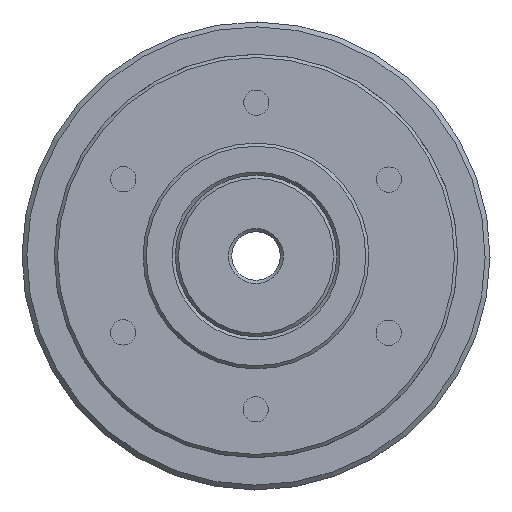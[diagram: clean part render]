
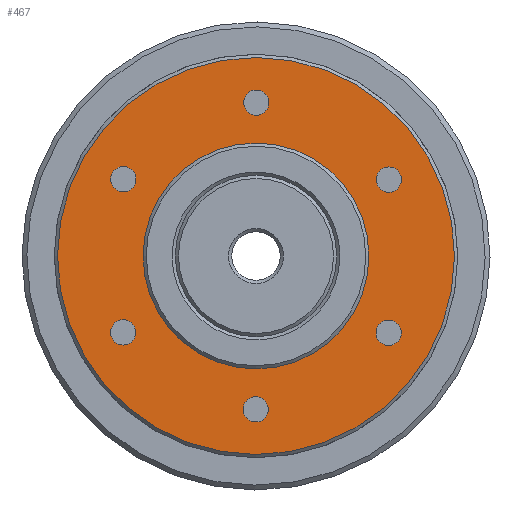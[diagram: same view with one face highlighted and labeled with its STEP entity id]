
A CAD part, left-side view. The second image highlights one B-rep face of the part: STEP entity #467.
In plain terms, the highlighted planar face has unit normal (-1, 0, 0).
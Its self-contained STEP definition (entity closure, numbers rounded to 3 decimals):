
#467 = ADVANCED_FACE( '', ( #933, #934, #935, #936, #937, #938, #939, #940 ), #941, .T. );
#933 = FACE_BOUND( '', #1436, .T. );
#934 = FACE_BOUND( '', #1437, .T. );
#935 = FACE_BOUND( '', #1438, .T. );
#936 = FACE_BOUND( '', #1439, .T. );
#937 = FACE_BOUND( '', #1440, .T. );
#938 = FACE_BOUND( '', #1441, .T. );
#939 = FACE_OUTER_BOUND( '', #1442, .T. );
#940 = FACE_BOUND( '', #1443, .T. );
#941 = PLANE( '', #1444 );
#1436 = EDGE_LOOP( '', ( #2100 ) );
#1437 = EDGE_LOOP( '', ( #2101 ) );
#1438 = EDGE_LOOP( '', ( #2102 ) );
#1439 = EDGE_LOOP( '', ( #2103 ) );
#1440 = EDGE_LOOP( '', ( #2104 ) );
#1441 = EDGE_LOOP( '', ( #2105 ) );
#1442 = EDGE_LOOP( '', ( #2106 ) );
#1443 = EDGE_LOOP( '', ( #2107 ) );
#1444 = AXIS2_PLACEMENT_3D( '', #2108, #2109, #2110 );
#2100 = ORIENTED_EDGE( '', *, *, #2455, .T. );
#2101 = ORIENTED_EDGE( '', *, *, #2588, .T. );
#2102 = ORIENTED_EDGE( '', *, *, #2389, .T. );
#2103 = ORIENTED_EDGE( '', *, *, #2547, .T. );
#2104 = ORIENTED_EDGE( '', *, *, #2589, .T. );
#2105 = ORIENTED_EDGE( '', *, *, #2590, .T. );
#2106 = ORIENTED_EDGE( '', *, *, #2591, .T. );
#2107 = ORIENTED_EDGE( '', *, *, #2392, .F. );
#2108 = CARTESIAN_POINT( '', ( 4., 0., 7. ) );
#2109 = DIRECTION( '', ( -1., 0., 0. ) );
#2110 = DIRECTION( '', ( 0., 0., 1. ) );
#2389 = EDGE_CURVE( '', #2662, #2662, #2663, .T. );
#2392 = EDGE_CURVE( '', #2667, #2667, #2668, .T. );
#2455 = EDGE_CURVE( '', #2774, #2774, #2775, .T. );
#2547 = EDGE_CURVE( '', #2915, #2915, #2916, .T. );
#2588 = EDGE_CURVE( '', #2973, #2973, #2974, .T. );
#2589 = EDGE_CURVE( '', #2975, #2975, #2976, .T. );
#2590 = EDGE_CURVE( '', #2977, #2977, #2978, .T. );
#2591 = EDGE_CURVE( '', #2979, #2979, #2980, .T. );
#2662 = VERTEX_POINT( '', #3170 );
#2663 = CIRCLE( '', #3171, 0.784 );
#2667 = VERTEX_POINT( '', #3175 );
#2668 = CIRCLE( '', #3176, 7. );
#2774 = VERTEX_POINT( '', #3356 );
#2775 = CIRCLE( '', #3357, 0.784 );
#2915 = VERTEX_POINT( '', #3578 );
#2916 = CIRCLE( '', #3579, 0.784 );
#2973 = VERTEX_POINT( '', #3780 );
#2974 = CIRCLE( '', #3781, 0.783 );
#2975 = VERTEX_POINT( '', #3782 );
#2976 = CIRCLE( '', #3783, 0.784 );
#2977 = VERTEX_POINT( '', #3784 );
#2978 = CIRCLE( '', #3785, 0.784 );
#2979 = VERTEX_POINT( '', #3786 );
#2980 = CIRCLE( '', #3787, 12.3 );
#3170 = CARTESIAN_POINT( '', ( 4., 0., -10.284 ) );
#3171 = AXIS2_PLACEMENT_3D( '', #3869, #3870, #3871 );
#3175 = CARTESIAN_POINT( '', ( 4., 0., 7. ) );
#3176 = AXIS2_PLACEMENT_3D( '', #3875, #3876, #3877 );
#3356 = CARTESIAN_POINT( '', ( 4., 8.906, 5.142 ) );
#3357 = AXIS2_PLACEMENT_3D( '', #3965, #3966, #3967 );
#3578 = CARTESIAN_POINT( '', ( 4., -8.906, -5.142 ) );
#3579 = AXIS2_PLACEMENT_3D( '', #4108, #4109, #4110 );
#3780 = CARTESIAN_POINT( '', ( 4., 8.906, -5.142 ) );
#3781 = AXIS2_PLACEMENT_3D( '', #4153, #4154, #4155 );
#3782 = CARTESIAN_POINT( '', ( 4., -8.906, 5.142 ) );
#3783 = AXIS2_PLACEMENT_3D( '', #4156, #4157, #4158 );
#3784 = CARTESIAN_POINT( '', ( 4., 0., 10.284 ) );
#3785 = AXIS2_PLACEMENT_3D( '', #4159, #4160, #4161 );
#3786 = CARTESIAN_POINT( '', ( 4., 0., 12.3 ) );
#3787 = AXIS2_PLACEMENT_3D( '', #4162, #4163, #4164 );
#3869 = CARTESIAN_POINT( '', ( 4., 0., -9.5 ) );
#3870 = DIRECTION( '', ( 1., 0., 0. ) );
#3871 = DIRECTION( '', ( 0., 0., -1. ) );
#3875 = CARTESIAN_POINT( '', ( 4., 0., 0. ) );
#3876 = DIRECTION( '', ( -1., 0., 0. ) );
#3877 = DIRECTION( '', ( 0., 0., 1. ) );
#3965 = CARTESIAN_POINT( '', ( 4., 8.227, 4.75 ) );
#3966 = DIRECTION( '', ( 1., 0., 0. ) );
#3967 = DIRECTION( '', ( 0., 0.866, 0.5 ) );
#4108 = CARTESIAN_POINT( '', ( 4., -8.227, -4.75 ) );
#4109 = DIRECTION( '', ( 1., 0., 0. ) );
#4110 = DIRECTION( '', ( 0., -0.866, -0.5 ) );
#4153 = CARTESIAN_POINT( '', ( 4., 8.227, -4.75 ) );
#4154 = DIRECTION( '', ( 1., 0., 0. ) );
#4155 = DIRECTION( '', ( 0., 0.866, -0.5 ) );
#4156 = CARTESIAN_POINT( '', ( 4., -8.227, 4.75 ) );
#4157 = DIRECTION( '', ( 1., 0., 0. ) );
#4158 = DIRECTION( '', ( 0., -0.866, 0.5 ) );
#4159 = CARTESIAN_POINT( '', ( 4., 0., 9.5 ) );
#4160 = DIRECTION( '', ( 1., 0., 0. ) );
#4161 = DIRECTION( '', ( 0., 0., 1. ) );
#4162 = CARTESIAN_POINT( '', ( 4., 0., 0. ) );
#4163 = DIRECTION( '', ( -1., 0., 0. ) );
#4164 = DIRECTION( '', ( 0., 0., 1. ) );
